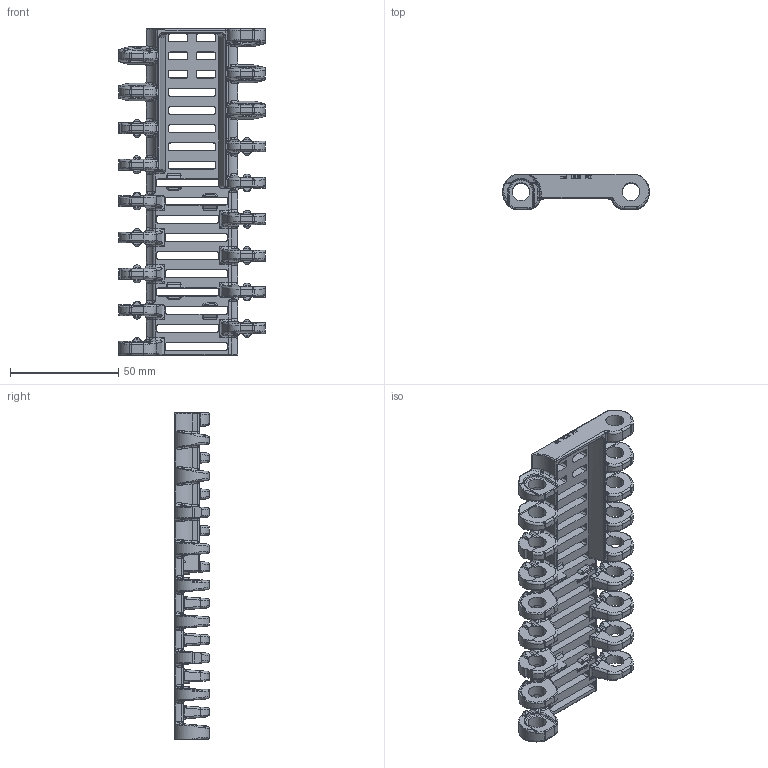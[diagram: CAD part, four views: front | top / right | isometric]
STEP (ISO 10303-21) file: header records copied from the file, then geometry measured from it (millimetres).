
FILE_DESCRIPTION((''),'2;1');
FILE_NAME('P1299','2011-05-03T',('mth'),(''),'PRO/ENGINEER BY PARAMETRIC TECHNOLOGY CORPORATION, 2010280','PRO/ENGINEER BY PARAMETRIC TECHNOLOGY CORPORATION, 2010280','');
FILE_SCHEMA(('AUTOMOTIVE_DESIGN { 1 0 10303 214 1 1 1 1 }'));
Length unit declared in the file: millimetre
Products named in the file (1): P1299
Bounding box: 67.8 x 16 x 151 mm (x, y, z)
Volume: 38018.5 mm3; surface area: 28654 mm2
Topology: 1 solids, 1 shells, 2275 faces, 5736 edges, 3451 vertices
Faces by surface type: bspline 836, cylinder 624, plane 536, torus 152, cone 84, sphere 43
Entity records: 189976 total; most frequent: CARTESIAN_POINT 124270, ORIENTED_EDGE 11472, DIRECTION 8234, PRESENTATION_STYLE_ASSIGNMENT 5737, STYLED_ITEM 5737, CURVE_STYLE 5736, EDGE_CURVE 5736, VERTEX_POINT 3451
